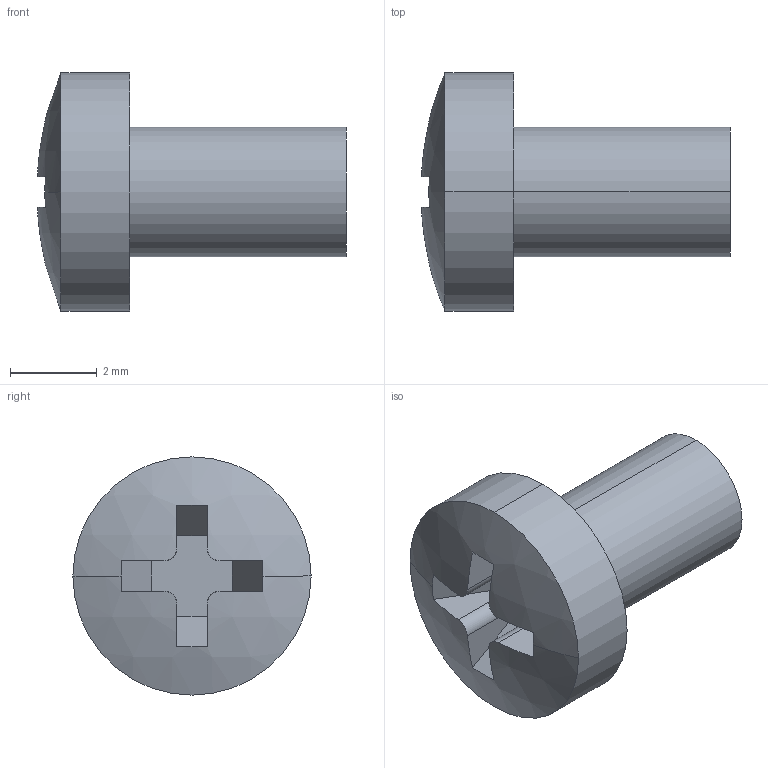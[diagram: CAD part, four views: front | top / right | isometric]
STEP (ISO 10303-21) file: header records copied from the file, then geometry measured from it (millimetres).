
FILE_DESCRIPTION(('Open CASCADE Model'),'2;1');
FILE_NAME('gb-small-pan-head-screw-m3-x-5.step','2026-11-14T14:31:50',( 'Author'),('Open CASCADE'),'Open CASCADE STEP processor 8.0', 'Open CASCADE 8.0','Unknown');
FILE_SCHEMA(('AP242_MANAGED_MODEL_BASED_3D_ENGINEERING_MIM_LF {1 0 10303 442 1 1 4 }' ));
Length unit declared in the file: millimetre
Products named in the file (1): GB Small Pan Head Screw M3 x 5
Bounding box: 7.12 x 5.5 x 5.5 mm (x, y, z)
Volume: 75.4 mm3; surface area: 134.6 mm2
Topology: 1 solids, 1 shells, 25 faces, 66 edges, 44 vertices
Faces by surface type: plane 15, cylinder 8, sphere 2
Entity records: 2208 total; most frequent: CARTESIAN_POINT 924, DIRECTION 236, ORIENTED_EDGE 132, PCURVE 132, DEFINITIONAL_REPRESENTATION 132, LINE 118, VECTOR 118, EDGE_CURVE 66
